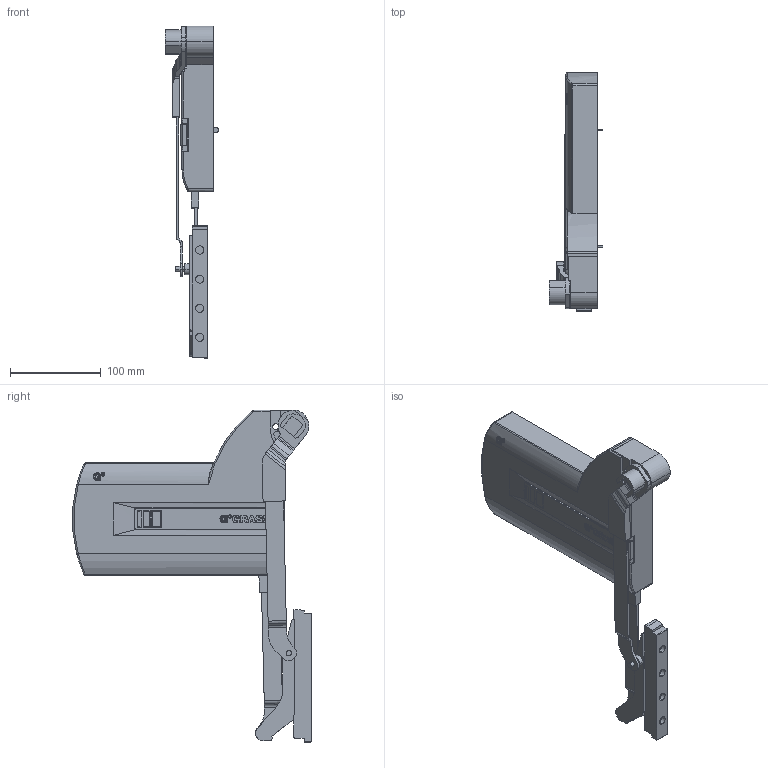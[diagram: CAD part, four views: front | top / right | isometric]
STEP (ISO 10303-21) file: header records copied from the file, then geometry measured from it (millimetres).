
FILE_DESCRIPTION (( 'STEP AP203' ), '1' );
FILE_NAME ('Kinvaro_L-80_Typ4_rechts_D2806014125~b.step', '2012-05-04T06:37:57', ( 'admin' ), ( 'Hewlett-Packard Company' ), 'SwSTEP 2.0', 'SolidWorks 2011', '' );
FILE_SCHEMA (( 'CONFIG_CONTROL_DESIGN' ));
Length unit declared in the file: millimetre
Products named in the file (1): Kinvaro_L-80_Typ4_rechts_D2806014125~b
Bounding box: 59 x 262.07 x 364.95 mm (x, y, z)
Volume: 1203472.4 mm3; surface area: 138157.6 mm2
Topology: 1 solids, 1 shells, 600 faces, 1658 edges, 1081 vertices
Faces by surface type: cylinder 276, plane 240, bspline 64, torus 18, sphere 2
Entity records: 20627 total; most frequent: CARTESIAN_POINT 5371, ORIENTED_EDGE 3310, DIRECTION 3077, EDGE_CURVE 1655, AXIS2_PLACEMENT_3D 1095, VERTEX_POINT 1081, LINE 887, VECTOR 887
